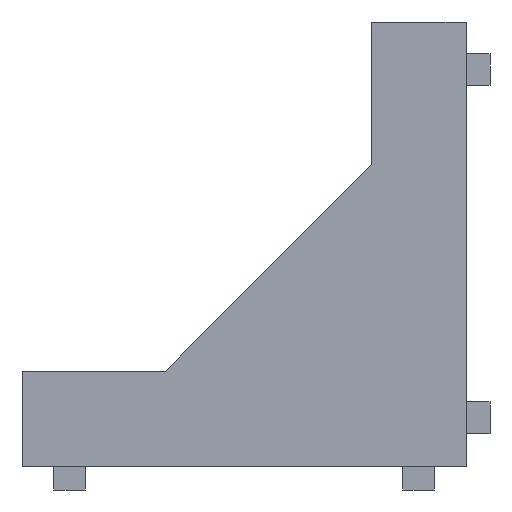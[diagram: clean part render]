
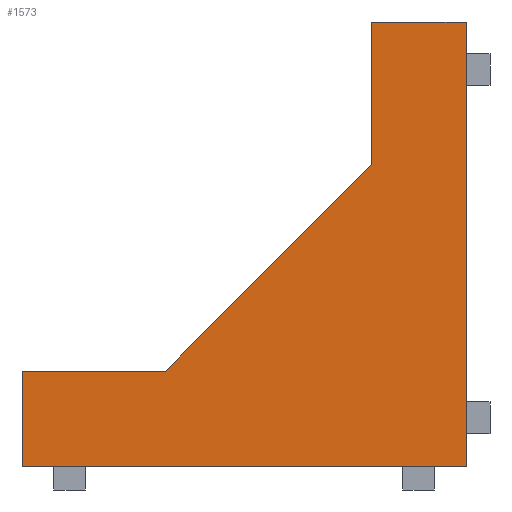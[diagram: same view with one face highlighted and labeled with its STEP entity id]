
A CAD part, left-side view. The second image highlights one B-rep face of the part: STEP entity #1573.
In plain terms, the highlighted planar face has unit normal (-1, 0, 0).
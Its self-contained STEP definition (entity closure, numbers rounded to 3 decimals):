
#28 = FACE_OUTER_BOUND ( 'NONE', #2030, .T. ) ;
#85 = CARTESIAN_POINT ( 'NONE',  ( -11.073, 13.738, 6. ) ) ;
#94 = CARTESIAN_POINT ( 'NONE',  ( -11.073, -14.262, 4. ) ) ;
#128 = LINE ( 'NONE', #1133, #673 ) ;
#200 = CARTESIAN_POINT ( 'NONE',  ( -11.073, -8.277, 19. ) ) ;
#213 = CARTESIAN_POINT ( 'NONE',  ( -11.073, -8.277, 19. ) ) ;
#224 = ORIENTED_EDGE ( 'NONE', *, *, #2006, .T. ) ;
#325 = ORIENTED_EDGE ( 'NONE', *, *, #1151, .F. ) ;
#344 = VERTEX_POINT ( 'NONE', #1109 ) ;
#380 = VERTEX_POINT ( 'NONE', #1868 ) ;
#396 = CARTESIAN_POINT ( 'NONE',  ( -11.073, 4.667, 6. ) ) ;
#417 = LINE ( 'NONE', #2141, #1850 ) ;
#423 = ORIENTED_EDGE ( 'NONE', *, *, #434, .T. ) ;
#434 = EDGE_CURVE ( 'NONE', #2177, #1074, #128, .T. ) ;
#452 = ORIENTED_EDGE ( 'NONE', *, *, #2189, .T. ) ;
#501 = EDGE_CURVE ( 'NONE', #2325, #380, #933, .T. ) ;
#575 = DIRECTION ( 'NONE',  ( 0., -1., 0. ) ) ;
#615 = PLANE ( 'NONE',  #2370 ) ;
#673 = VECTOR ( 'NONE', #2256, 1000. ) ;
#765 = CARTESIAN_POINT ( 'NONE',  ( -11.073, 13.738, 0. ) ) ;
#774 = DIRECTION ( 'NONE',  ( 0., 1., 0. ) ) ;
#834 = LINE ( 'NONE', #396, #1765 ) ;
#933 = LINE ( 'NONE', #213, #1369 ) ;
#964 = EDGE_CURVE ( 'NONE', #1074, #2279, #1531, .T. ) ;
#1001 = DIRECTION ( 'NONE',  ( 1., 0., 0. ) ) ;
#1052 = VECTOR ( 'NONE', #575, 1000. ) ;
#1074 = VERTEX_POINT ( 'NONE', #1551 ) ;
#1109 = CARTESIAN_POINT ( 'NONE',  ( -11.073, -14.262, 28. ) ) ;
#1133 = CARTESIAN_POINT ( 'NONE',  ( -11.073, 13.738, 4. ) ) ;
#1151 = EDGE_CURVE ( 'NONE', #344, #2279, #2067, .T. ) ;
#1327 = ORIENTED_EDGE ( 'NONE', *, *, #964, .T. ) ;
#1369 = VECTOR ( 'NONE', #1888, 1000. ) ;
#1385 = DIRECTION ( 'NONE',  ( 0., 0., -1. ) ) ;
#1431 = ORIENTED_EDGE ( 'NONE', *, *, #1488, .F. ) ;
#1488 = EDGE_CURVE ( 'NONE', #2009, #344, #2197, .T. ) ;
#1531 = LINE ( 'NONE', #765, #1052 ) ;
#1551 = CARTESIAN_POINT ( 'NONE',  ( -11.073, 13.738, 0. ) ) ;
#1573 = ADVANCED_FACE ( 'NONE', ( #28 ), #615, .F. ) ;
#1744 = VECTOR ( 'NONE', #2045, 1000. ) ;
#1765 = VECTOR ( 'NONE', #774, 1000. ) ;
#1850 = VECTOR ( 'NONE', #2322, 1000. ) ;
#1855 = CARTESIAN_POINT ( 'NONE',  ( -11.073, -10.277, 28. ) ) ;
#1868 = CARTESIAN_POINT ( 'NONE',  ( -11.073, 4.667, 6. ) ) ;
#1888 = DIRECTION ( 'NONE',  ( 0., 0.706, -0.709 ) ) ;
#1896 = CARTESIAN_POINT ( 'NONE',  ( -11.073, -8.277, 28. ) ) ;
#2006 = EDGE_CURVE ( 'NONE', #380, #2177, #834, .T. ) ;
#2009 = VERTEX_POINT ( 'NONE', #1896 ) ;
#2013 = VECTOR ( 'NONE', #1385, 1000. ) ;
#2030 = EDGE_LOOP ( 'NONE', ( #1327, #325, #1431, #452, #2395, #224, #423 ) ) ;
#2045 = DIRECTION ( 'NONE',  ( 0., -1., 0. ) ) ;
#2067 = LINE ( 'NONE', #94, #2013 ) ;
#2119 = CARTESIAN_POINT ( 'NONE',  ( -11.073, 13.738, 4. ) ) ;
#2141 = CARTESIAN_POINT ( 'NONE',  ( -11.073, -8.277, 28. ) ) ;
#2160 = CARTESIAN_POINT ( 'NONE',  ( -11.073, -14.262, 0. ) ) ;
#2177 = VERTEX_POINT ( 'NONE', #85 ) ;
#2189 = EDGE_CURVE ( 'NONE', #2009, #2325, #417, .T. ) ;
#2197 = LINE ( 'NONE', #1855, #1744 ) ;
#2256 = DIRECTION ( 'NONE',  ( 0., 0., -1. ) ) ;
#2279 = VERTEX_POINT ( 'NONE', #2160 ) ;
#2310 = DIRECTION ( 'NONE',  ( 0., 1., 0. ) ) ;
#2322 = DIRECTION ( 'NONE',  ( 0., 0., -1. ) ) ;
#2325 = VERTEX_POINT ( 'NONE', #200 ) ;
#2370 = AXIS2_PLACEMENT_3D ( 'NONE', #2119, #1001, #2310 ) ;
#2395 = ORIENTED_EDGE ( 'NONE', *, *, #501, .T. ) ;
